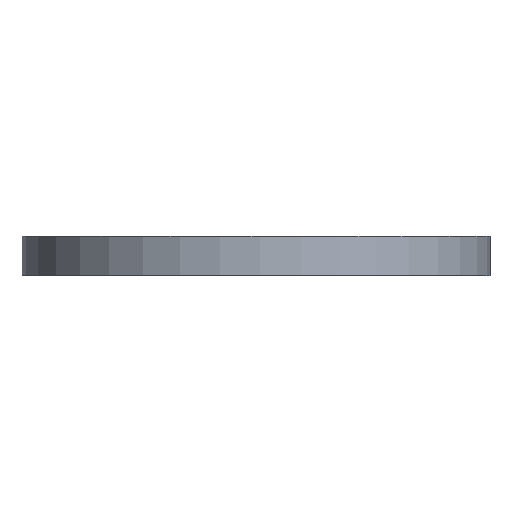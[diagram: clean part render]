
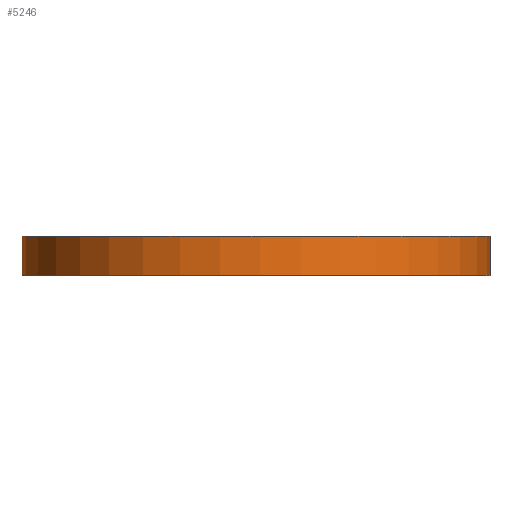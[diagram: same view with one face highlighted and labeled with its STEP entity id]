
A CAD part, top view. The second image highlights one B-rep face of the part: STEP entity #5246.
In plain terms, the highlighted cylindrical face has radius 12 mm (diameter 24 mm), a partial arc.
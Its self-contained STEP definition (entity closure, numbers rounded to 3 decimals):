
#1181=CARTESIAN_POINT('',(1.365,0.,0.));
#1182=DIRECTION('',(0.,-1.,0.));
#1183=DIRECTION('',(0.634,0.,-0.773));
#1184=AXIS2_PLACEMENT_3D('',#1181,#1182,#1183);
#1233=CARTESIAN_POINT('',(1.365,2.,0.));
#1234=DIRECTION('',(0.,-1.,0.));
#1235=DIRECTION('',(0.634,0.,-0.773));
#1236=AXIS2_PLACEMENT_3D('',#1233,#1234,#1235);
#2694=DIRECTION('',(0.,1.,0.));
#2695=VECTOR('',#2694,2.);
#2696=CARTESIAN_POINT('',(8.976,0.,-9.278));
#2697=LINE('',#2696,#2695);
#2698=DIRECTION('',(0.,1.,0.));
#2699=VECTOR('',#2698,2.);
#2700=CARTESIAN_POINT('',(8.817,0.,-9.405));
#2701=LINE('',#2700,#2699);
#4446=CARTESIAN_POINT('',(8.976,0.,-9.278));
#4447=CARTESIAN_POINT('',(8.976,2.,-9.278));
#4448=VERTEX_POINT('',#4446);
#4449=VERTEX_POINT('',#4447);
#4530=CARTESIAN_POINT('',(8.817,0.,-9.405));
#4531=CARTESIAN_POINT('',(8.817,2.,-9.405));
#4532=VERTEX_POINT('',#4530);
#4533=VERTEX_POINT('',#4531);
#5232=CARTESIAN_POINT('',(1.365,-10.,0.));
#5233=DIRECTION('',(0.,1.,0.));
#5234=DIRECTION('',(1.,0.,0.));
#5235=AXIS2_PLACEMENT_3D('',#5232,#5233,#5234);
#5236=CYLINDRICAL_SURFACE('',#5235,12.);
#5238=ORIENTED_EDGE('',*,*,#5237,.F.);
#5240=ORIENTED_EDGE('',*,*,#5239,.F.);
#5241=ORIENTED_EDGE('',*,*,#4563,.T.);
#5243=ORIENTED_EDGE('',*,*,#5242,.T.);
#5244=EDGE_LOOP('',(#5238,#5240,#5241,#5243));
#5245=FACE_OUTER_BOUND('',#5244,.F.);
#5246=ADVANCED_FACE('',(#5245),#5236,.T.);
#1185=CIRCLE('',#1184,12.);
#1237=CIRCLE('',#1236,12.);
#4563=EDGE_CURVE('',#4448,#4532,#1185,.T.);
#5237=EDGE_CURVE('',#4449,#4533,#1237,.T.);
#5239=EDGE_CURVE('',#4448,#4449,#2697,.T.);
#5242=EDGE_CURVE('',#4532,#4533,#2701,.T.);
